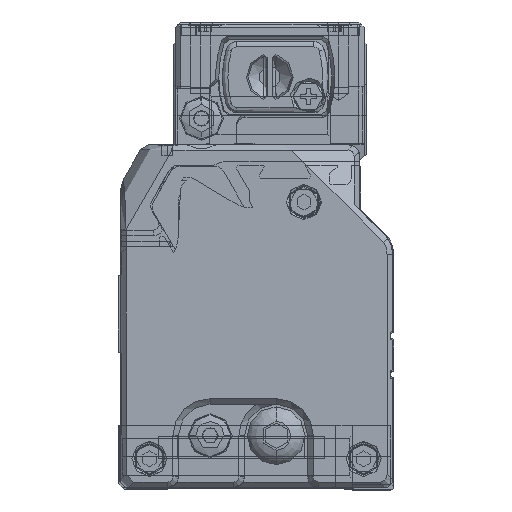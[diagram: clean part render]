
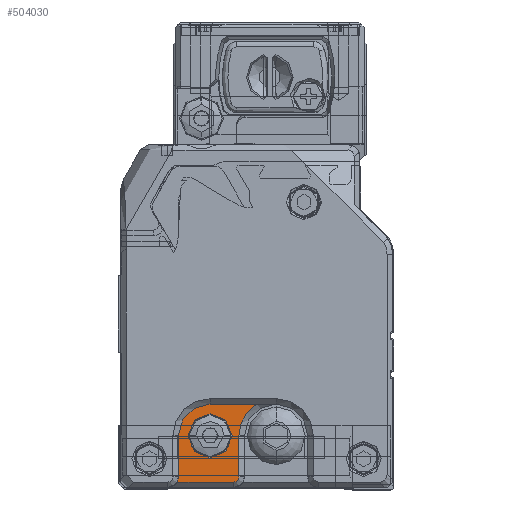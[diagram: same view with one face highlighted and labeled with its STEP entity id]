
A CAD part, left-side view. The second image highlights one B-rep face of the part: STEP entity #504030.
In plain terms, the highlighted planar face has unit normal (-1, 0, 0) as drawn and (1, 0, 0) by its records, which use the part's own axes.
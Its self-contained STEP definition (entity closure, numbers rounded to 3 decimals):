
#503130=CARTESIAN_POINT('',(7664.177,-5.938,
-12.8));
#503140=DIRECTION('',(-1.,0.,0.));
#503150=DIRECTION('',(0.,0.,-1.));
#503160=AXIS2_PLACEMENT_3D('',#503130,#503140,#503150);
#503170=PLANE('',#503160);
#503180=CARTESIAN_POINT('',(7664.177,4.212,
11.598));
#503190=DIRECTION('',(0.,-1.,0.));
#503200=VECTOR('',#503190,1.);
#503210=LINE('',#503180,#503200);
#503220=CARTESIAN_POINT('',(7664.177,8.48,
11.598));
#503230=VERTEX_POINT('',#503220);
#503240=CARTESIAN_POINT('',(7664.177,-1.788,
11.598));
#503250=VERTEX_POINT('',#503240);
#503260=EDGE_CURVE('',#503230,#503250,#503210,.T.);
#503270=ORIENTED_EDGE('',*,*,#503260,.T.);
#503280=CARTESIAN_POINT('',(7664.177,10.212,
10.598));
#503290=DIRECTION('',(-1.,0.,0.));
#503300=DIRECTION('',(0.,1.,0.));
#503310=AXIS2_PLACEMENT_3D('',#503280,#503290,#503300);
#503320=CIRCLE('',#503310,2.);
#503330=CARTESIAN_POINT('',(7664.177,8.212,
10.598));
#503340=VERTEX_POINT('',#503330);
#503350=EDGE_CURVE('',#503340,#503230,#503320,.T.);
#503360=ORIENTED_EDGE('',*,*,#503350,.T.);
#503370=CARTESIAN_POINT('',(7664.177,8.212,
3.148));
#503380=DIRECTION('',(0.,0.,1.));
#503390=VECTOR('',#503380,1.);
#503400=LINE('',#503370,#503390);
#503410=CARTESIAN_POINT('',(7664.177,8.212,
3.148));
#503420=VERTEX_POINT('',#503410);
#503430=EDGE_CURVE('',#503420,#503340,#503400,.T.);
#503440=ORIENTED_EDGE('',*,*,#503430,.T.);
#503450=CARTESIAN_POINT('',(7664.177,2.462,
3.148));
#503460=DIRECTION('',(-1.,0.,0.));
#503470=DIRECTION('',(0.,1.,0.));
#503480=AXIS2_PLACEMENT_3D('',#503450,#503460,#503470);
#503490=CIRCLE('',#503480,5.75);
#503500=CARTESIAN_POINT('',(7664.177,2.462,
-2.602));
#503510=VERTEX_POINT('',#503500);
#503520=EDGE_CURVE('',#503420,#503510,#503490,.T.);
#503530=ORIENTED_EDGE('',*,*,#503520,.F.);
#503540=CARTESIAN_POINT('',(7664.177,-5.888,
-2.602));
#503550=DIRECTION('',(0.,1.,0.));
#503560=VECTOR('',#503550,1.);
#503570=LINE('',#503540,#503560);
#503580=CARTESIAN_POINT('',(7664.177,-6.002,
-2.602));
#503590=VERTEX_POINT('',#503580);
#503600=EDGE_CURVE('',#503590,#503510,#503570,.T.);
#503610=ORIENTED_EDGE('',*,*,#503600,.T.);
#503620=CARTESIAN_POINT('',(7664.177,-9.538,
3.148));
#503630=DIRECTION('',(-1.,0.,0.));
#503640=DIRECTION('',(0.,1.,0.));
#503650=AXIS2_PLACEMENT_3D('',#503620,#503630,#503640);
#503660=CIRCLE('',#503650,6.75);
#503670=CARTESIAN_POINT('',(7664.177,-2.788,
3.148));
#503680=VERTEX_POINT('',#503670);
#503690=EDGE_CURVE('',#503680,#503590,#503660,.T.);
#503700=ORIENTED_EDGE('',*,*,#503690,.T.);
#503710=CARTESIAN_POINT('',(7664.177,-2.788,
6.873));
#503720=DIRECTION('',(0.,0.,-1.));
#503730=VECTOR('',#503720,1.);
#503740=LINE('',#503710,#503730);
#503750=CARTESIAN_POINT('',(7664.177,-2.788,
10.598));
#503760=VERTEX_POINT('',#503750);
#503770=EDGE_CURVE('',#503760,#503680,#503740,.T.);
#503780=ORIENTED_EDGE('',*,*,#503770,.T.);
#503790=CARTESIAN_POINT('',(7664.177,-1.788,
10.598));
#503800=DIRECTION('',(-1.,0.,0.));
#503810=DIRECTION('',(0.,1.,0.));
#503820=AXIS2_PLACEMENT_3D('',#503790,#503800,#503810);
#503830=CIRCLE('',#503820,1.);
#503840=EDGE_CURVE('',#503760,#503250,#503830,.T.);
#503850=ORIENTED_EDGE('',*,*,#503840,.F.);
#503860=EDGE_LOOP('',(#503850,#503780,#503700,#503610,#503530,#503440,
#503360,#503270));
#503870=FACE_OUTER_BOUND('',#503860,.T.);
#503880=CARTESIAN_POINT('',(7664.177,2.462,
3.148));
#503890=DIRECTION('',(-1.,0.,0.));
#503900=DIRECTION('',(0.,0.,-1.));
#503910=AXIS2_PLACEMENT_3D('',#503880,#503890,#503900);
#503920=CIRCLE('',#503910,4.);
#503930=CARTESIAN_POINT('',(7664.177,2.462,
7.148));
#503940=VERTEX_POINT('',#503930);
#503950=CARTESIAN_POINT('',(7664.177,2.462,
-0.852));
#503960=VERTEX_POINT('',#503950);
#503970=EDGE_CURVE('',#503940,#503960,#503920,.T.);
#503980=ORIENTED_EDGE('',*,*,#503970,.T.);
#503990=EDGE_CURVE('',#503960,#503940,#503920,.T.);
#504000=ORIENTED_EDGE('',*,*,#503990,.T.);
#504010=EDGE_LOOP('',(#504000,#503980));
#504020=FACE_BOUND('',#504010,.T.);
#504030=ADVANCED_FACE('',(#503870,#504020),#503170,.F.);
